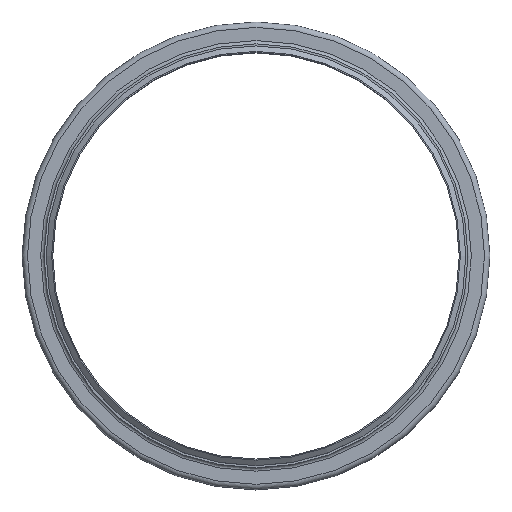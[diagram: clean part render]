
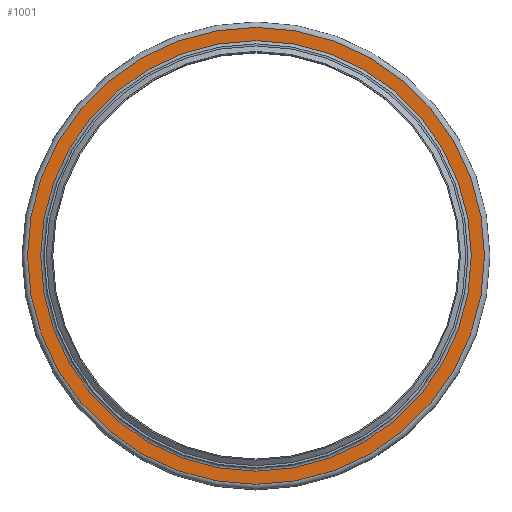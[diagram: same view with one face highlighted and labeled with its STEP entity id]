
A CAD part, top view. The second image highlights one B-rep face of the part: STEP entity #1001.
In plain terms, the highlighted planar face has unit normal (0, 0, 1).
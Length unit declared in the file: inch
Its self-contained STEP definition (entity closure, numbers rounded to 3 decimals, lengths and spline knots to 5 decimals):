
#123=FACE_BOUND('',#304,.T.);
#192=FACE_OUTER_BOUND('',#303,.T.);
#303=EDGE_LOOP('',(#832));
#304=EDGE_LOOP('',(#833));
#424=CIRCLE('',#1220,12.31);
#425=CIRCLE('',#1222,13.065);
#511=VERTEX_POINT('',#1895);
#512=VERTEX_POINT('',#1899);
#622=EDGE_CURVE('',#511,#511,#424,.T.);
#623=EDGE_CURVE('',#512,#512,#425,.T.);
#832=ORIENTED_EDGE('',*,*,#623,.F.);
#833=ORIENTED_EDGE('',*,*,#622,.T.);
#932=PLANE('',#1221);
#1001=ADVANCED_FACE('',(#192,#123),#932,.T.);
#1220=AXIS2_PLACEMENT_3D('',#1897,#1573,#1574);
#1221=AXIS2_PLACEMENT_3D('',#1898,#1575,#1576);
#1222=AXIS2_PLACEMENT_3D('',#1900,#1577,#1578);
#1573=DIRECTION('center_axis',(0.,0.,-1.));
#1574=DIRECTION('ref_axis',(1.,0.,0.));
#1575=DIRECTION('center_axis',(0.,0.,1.));
#1576=DIRECTION('ref_axis',(1.,0.,0.));
#1577=DIRECTION('center_axis',(0.,0.,-1.));
#1578=DIRECTION('ref_axis',(1.,0.,0.));
#1895=CARTESIAN_POINT('',(12.31,0.,-0.19));
#1897=CARTESIAN_POINT('Origin',(0.,0.,-0.19));
#1898=CARTESIAN_POINT('Origin',(0.,13.065,-0.19));
#1899=CARTESIAN_POINT('',(13.065,0.,-0.19));
#1900=CARTESIAN_POINT('Origin',(0.,0.,-0.19));
